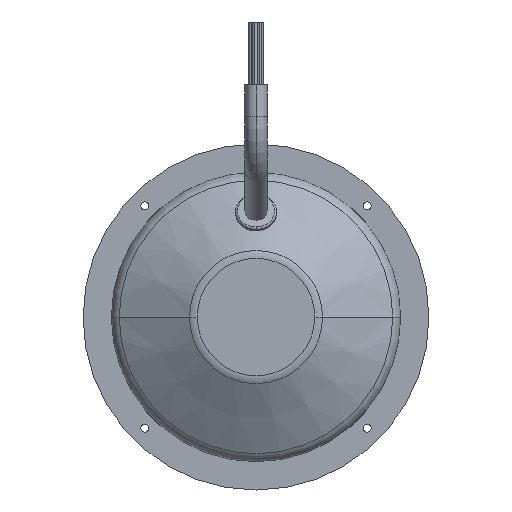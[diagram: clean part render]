
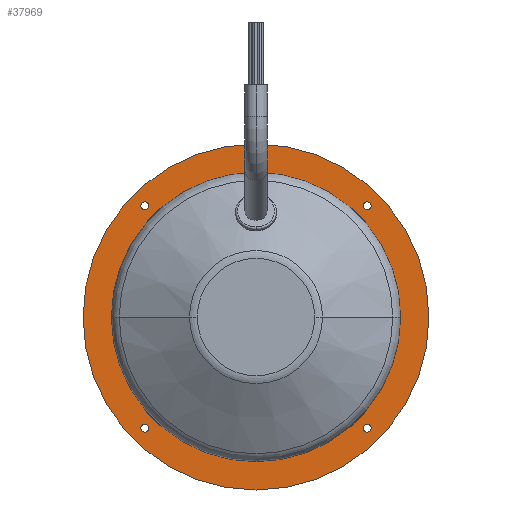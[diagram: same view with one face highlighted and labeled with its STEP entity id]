
A CAD part, front view. The second image highlights one B-rep face of the part: STEP entity #37969.
In plain terms, the highlighted planar face has unit normal (0, -1, 0).
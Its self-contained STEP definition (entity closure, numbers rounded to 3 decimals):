
#261 = DIRECTION ( 'NONE',  ( 0., 0., 1. ) ) ;
#419 = DIRECTION ( 'NONE',  ( 0., 1., 0. ) ) ;
#924 = CARTESIAN_POINT ( 'NONE',  ( 0., -2., 0. ) ) ;
#1097 = DIRECTION ( 'NONE',  ( 0., 1., 0. ) ) ;
#1399 = AXIS2_PLACEMENT_3D ( 'NONE', #11232, #6871, #7422 ) ;
#2322 = EDGE_CURVE ( 'NONE', #19055, #29077, #36208, .T. ) ;
#2612 = CIRCLE ( 'NONE', #10180, 1.25 ) ;
#2662 = DIRECTION ( 'NONE',  ( 0., 1., 0. ) ) ;
#3009 = CARTESIAN_POINT ( 'NONE',  ( -35.355, -2., -35.355 ) ) ;
#3550 = DIRECTION ( 'NONE',  ( 0., 1., 0. ) ) ;
#4644 = FACE_OUTER_BOUND ( 'NONE', #25825, .T. ) ;
#4714 = CARTESIAN_POINT ( 'NONE',  ( 46., -2., 0. ) ) ;
#5002 = ORIENTED_EDGE ( 'NONE', *, *, #41189, .T. ) ;
#5325 = CARTESIAN_POINT ( 'NONE',  ( 35.355, -2., 36.605 ) ) ;
#5379 = DIRECTION ( 'NONE',  ( 0., 0., 1. ) ) ;
#5610 = CARTESIAN_POINT ( 'NONE',  ( 35.355, -2., -35.355 ) ) ;
#5738 = DIRECTION ( 'NONE',  ( 0., 0., 1. ) ) ;
#5857 = EDGE_CURVE ( 'NONE', #29077, #19055, #2612, .T. ) ;
#6117 = CARTESIAN_POINT ( 'NONE',  ( -35.355, -2., -36.605 ) ) ;
#6197 = ORIENTED_EDGE ( 'NONE', *, *, #5857, .T. ) ;
#6329 = ORIENTED_EDGE ( 'NONE', *, *, #16944, .T. ) ;
#6621 = DIRECTION ( 'NONE',  ( 0., 0., 1. ) ) ;
#6871 = DIRECTION ( 'NONE',  ( 0., 1., 0. ) ) ;
#6890 = CARTESIAN_POINT ( 'NONE',  ( -35.355, -2., -35.355 ) ) ;
#7422 = DIRECTION ( 'NONE',  ( 0., 0., 1. ) ) ;
#7570 = CARTESIAN_POINT ( 'NONE',  ( -35.355, -2., 36.605 ) ) ;
#8248 = ORIENTED_EDGE ( 'NONE', *, *, #12684, .T. ) ;
#8416 = EDGE_LOOP ( 'NONE', ( #6329, #29886 ) ) ;
#8470 = CIRCLE ( 'NONE', #53061, 1.25 ) ;
#8809 = CARTESIAN_POINT ( 'NONE',  ( 0., -2., 55. ) ) ;
#8878 = CARTESIAN_POINT ( 'NONE',  ( -35.355, -2., -34.105 ) ) ;
#9637 = DIRECTION ( 'NONE',  ( 0., 0., 1. ) ) ;
#10180 = AXIS2_PLACEMENT_3D ( 'NONE', #16181, #2662, #6621 ) ;
#10200 = VERTEX_POINT ( 'NONE', #21000 ) ;
#10593 = VERTEX_POINT ( 'NONE', #8878 ) ;
#10675 = CIRCLE ( 'NONE', #51861, 1.25 ) ;
#10801 = VERTEX_POINT ( 'NONE', #6117 ) ;
#11001 = DIRECTION ( 'NONE',  ( 0., 0., -1. ) ) ;
#11232 = CARTESIAN_POINT ( 'NONE',  ( 0., -2., 0. ) ) ;
#11353 = AXIS2_PLACEMENT_3D ( 'NONE', #924, #34433, #46558 ) ;
#12684 = EDGE_CURVE ( 'NONE', #30860, #51666, #26863, .T. ) ;
#13096 = ORIENTED_EDGE ( 'NONE', *, *, #13487, .T. ) ;
#13487 = EDGE_CURVE ( 'NONE', #50176, #35840, #10675, .T. ) ;
#14288 = DIRECTION ( 'NONE',  ( 0., 0., 1. ) ) ;
#14604 = CARTESIAN_POINT ( 'NONE',  ( 35.355, -2., 34.105 ) ) ;
#14685 = CIRCLE ( 'NONE', #30494, 46. ) ;
#15293 = DIRECTION ( 'NONE',  ( 0., -1., 0. ) ) ;
#15415 = ORIENTED_EDGE ( 'NONE', *, *, #53120, .F. ) ;
#15905 = CIRCLE ( 'NONE', #41847, 1.25 ) ;
#16101 = DIRECTION ( 'NONE',  ( 0., 1., 0. ) ) ;
#16181 = CARTESIAN_POINT ( 'NONE',  ( 35.355, -2., -35.355 ) ) ;
#16516 = AXIS2_PLACEMENT_3D ( 'NONE', #5610, #51096, #14288 ) ;
#16795 = DIRECTION ( 'NONE',  ( 0., 0., 1. ) ) ;
#16944 = EDGE_CURVE ( 'NONE', #10593, #10801, #8470, .T. ) ;
#17291 = CARTESIAN_POINT ( 'NONE',  ( -35.355, -2., 35.355 ) ) ;
#18242 = DIRECTION ( 'NONE',  ( 0., 1., 0. ) ) ;
#19055 = VERTEX_POINT ( 'NONE', #21320 ) ;
#19100 = CARTESIAN_POINT ( 'NONE',  ( 0., -2., 0. ) ) ;
#19185 = FACE_BOUND ( 'NONE', #8416, .T. ) ;
#19920 = FACE_BOUND ( 'NONE', #47440, .T. ) ;
#20958 = CARTESIAN_POINT ( 'NONE',  ( -35.355, -2., 35.355 ) ) ;
#21000 = CARTESIAN_POINT ( 'NONE',  ( -46., -2., 0. ) ) ;
#21096 = CARTESIAN_POINT ( 'NONE',  ( 0., -2., -55. ) ) ;
#21273 = EDGE_CURVE ( 'NONE', #10801, #10593, #15905, .T. ) ;
#21320 = CARTESIAN_POINT ( 'NONE',  ( 35.355, -2., -36.605 ) ) ;
#22726 = DIRECTION ( 'NONE',  ( 0., 1., 0. ) ) ;
#23191 = CIRCLE ( 'NONE', #11353, 46. ) ;
#23273 = PLANE ( 'NONE',  #1399 ) ;
#23297 = CIRCLE ( 'NONE', #46180, 55. ) ;
#23913 = DIRECTION ( 'NONE',  ( 0., 0., 1. ) ) ;
#24778 = VERTEX_POINT ( 'NONE', #8809 ) ;
#25274 = AXIS2_PLACEMENT_3D ( 'NONE', #28898, #16101, #261 ) ;
#25794 = ORIENTED_EDGE ( 'NONE', *, *, #2322, .T. ) ;
#25825 = EDGE_LOOP ( 'NONE', ( #47925, #15415 ) ) ;
#26299 = DIRECTION ( 'NONE',  ( 0., 1., 0. ) ) ;
#26863 = CIRCLE ( 'NONE', #40071, 1.25 ) ;
#27980 = EDGE_LOOP ( 'NONE', ( #6197, #25794 ) ) ;
#28898 = CARTESIAN_POINT ( 'NONE',  ( 35.355, -2., 35.355 ) ) ;
#29077 = VERTEX_POINT ( 'NONE', #40632 ) ;
#29886 = ORIENTED_EDGE ( 'NONE', *, *, #21273, .T. ) ;
#30494 = AXIS2_PLACEMENT_3D ( 'NONE', #19100, #15293, #11001 ) ;
#30788 = AXIS2_PLACEMENT_3D ( 'NONE', #20958, #419, #16795 ) ;
#30860 = VERTEX_POINT ( 'NONE', #14604 ) ;
#30874 = DIRECTION ( 'NONE',  ( 0., 0., 1. ) ) ;
#32367 = VERTEX_POINT ( 'NONE', #4714 ) ;
#34107 = EDGE_CURVE ( 'NONE', #24778, #35136, #23297, .T. ) ;
#34319 = EDGE_LOOP ( 'NONE', ( #13096, #50889 ) ) ;
#34433 = DIRECTION ( 'NONE',  ( 0., -1., 0. ) ) ;
#34670 = CARTESIAN_POINT ( 'NONE',  ( 0., -2., 0. ) ) ;
#35136 = VERTEX_POINT ( 'NONE', #21096 ) ;
#35150 = EDGE_LOOP ( 'NONE', ( #35387, #52395 ) ) ;
#35231 = EDGE_CURVE ( 'NONE', #10200, #32367, #23191, .T. ) ;
#35387 = ORIENTED_EDGE ( 'NONE', *, *, #42016, .F. ) ;
#35840 = VERTEX_POINT ( 'NONE', #46315 ) ;
#35879 = CARTESIAN_POINT ( 'NONE',  ( 0., -2., 0. ) ) ;
#36208 = CIRCLE ( 'NONE', #16516, 1.25 ) ;
#37348 = CIRCLE ( 'NONE', #25274, 1.25 ) ;
#37969 = ADVANCED_FACE ( 'NONE', ( #19185, #19920, #42463, #49559, #42662, #4644 ), #23273, .F. ) ;
#39199 = DIRECTION ( 'NONE',  ( 0., 1., 0. ) ) ;
#40071 = AXIS2_PLACEMENT_3D ( 'NONE', #51041, #26299, #5738 ) ;
#40632 = CARTESIAN_POINT ( 'NONE',  ( 35.355, -2., -34.105 ) ) ;
#41189 = EDGE_CURVE ( 'NONE', #51666, #30860, #37348, .T. ) ;
#41847 = AXIS2_PLACEMENT_3D ( 'NONE', #6890, #39199, #30874 ) ;
#42016 = EDGE_CURVE ( 'NONE', #32367, #10200, #14685, .T. ) ;
#42463 = FACE_BOUND ( 'NONE', #34319, .T. ) ;
#42662 = FACE_BOUND ( 'NONE', #35150, .T. ) ;
#43479 = CIRCLE ( 'NONE', #30788, 1.25 ) ;
#43994 = CIRCLE ( 'NONE', #51985, 55. ) ;
#46180 = AXIS2_PLACEMENT_3D ( 'NONE', #35879, #22726, #51608 ) ;
#46315 = CARTESIAN_POINT ( 'NONE',  ( -35.355, -2., 34.105 ) ) ;
#46558 = DIRECTION ( 'NONE',  ( 0., 0., -1. ) ) ;
#47440 = EDGE_LOOP ( 'NONE', ( #5002, #8248 ) ) ;
#47925 = ORIENTED_EDGE ( 'NONE', *, *, #34107, .F. ) ;
#49559 = FACE_BOUND ( 'NONE', #27980, .T. ) ;
#49744 = EDGE_CURVE ( 'NONE', #35840, #50176, #43479, .T. ) ;
#50176 = VERTEX_POINT ( 'NONE', #7570 ) ;
#50889 = ORIENTED_EDGE ( 'NONE', *, *, #49744, .T. ) ;
#51041 = CARTESIAN_POINT ( 'NONE',  ( 35.355, -2., 35.355 ) ) ;
#51096 = DIRECTION ( 'NONE',  ( 0., 1., 0. ) ) ;
#51608 = DIRECTION ( 'NONE',  ( 0., 0., 1. ) ) ;
#51666 = VERTEX_POINT ( 'NONE', #5325 ) ;
#51861 = AXIS2_PLACEMENT_3D ( 'NONE', #17291, #1097, #5379 ) ;
#51985 = AXIS2_PLACEMENT_3D ( 'NONE', #34670, #18242, #9637 ) ;
#52395 = ORIENTED_EDGE ( 'NONE', *, *, #35231, .F. ) ;
#53061 = AXIS2_PLACEMENT_3D ( 'NONE', #3009, #3550, #23913 ) ;
#53120 = EDGE_CURVE ( 'NONE', #35136, #24778, #43994, .T. ) ;
